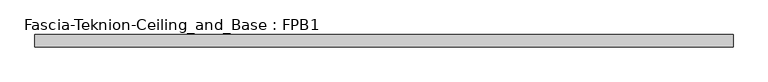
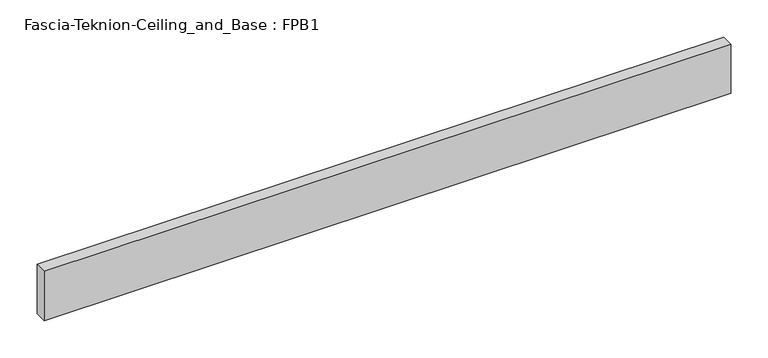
"""IFC4 building model written with IfcOpenShell, lengths in millimetres: proxy geometry, Fascia-Teknion-Ceiling_and_Base : FPB1."""

from ifc_helpers import new_model, si_unit, origin, origin_with_axes, place, context, project, spatial, polyline, outline, extrude, source, transform, mapped, element, save


def fascia_teknion_ceiling_and_base_fpb1_29265a3b(model_context):
    return source(origin(), model_context, "Body", "SweptSolid", [
        extrude(outline(polyline([(535.9300781, 0.0), (-535.9300781, 0.0), (-535.9300781, 19.05), (535.9300781, 19.05), (535.9300781, 0.0)])), origin_with_axes(), (0.0, 0.0, 1.0), 81.28),
    ])


if __name__ == "__main__":
    model = new_model("IFC4")
    model_context = context("Model", 3, world=origin())
    ifc_project = project(units=[si_unit("LENGTHUNIT", "METRE", prefix="MILLI")], contexts=[model_context])
    site = spatial("IfcSite", under=ifc_project)
    building = spatial("IfcBuilding", under=site)
    placement = place(None, origin())
    fascia_teknion_ceiling_and_base_fpb1_shape = fascia_teknion_ceiling_and_base_fpb1_29265a3b(model_context)
    element("IfcBuildingElementProxy", 1, Name="Fascia-Teknion-Ceiling_and_Base : FPB1", ObjectType="Fascia-Teknion-Ceiling_and_Base : FPB1", at=placement, inside=building, context=model_context, shape_type="MappedRepresentation", body=[
        mapped(fascia_teknion_ceiling_and_base_fpb1_shape, transform((0.0, 0.0, 0.0), x_axis=(1.0, 0.0, 0.0), y_axis=(0.0, 1.0, 0.0), z_axis=(0.0, 0.0, 1.0))),
    ])
    save(model, "model.ifc")
